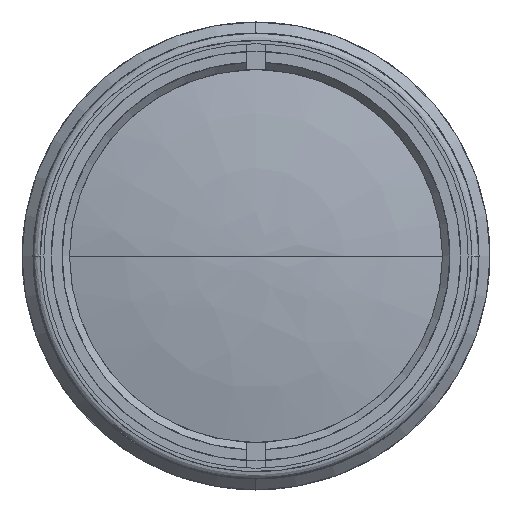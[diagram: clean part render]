
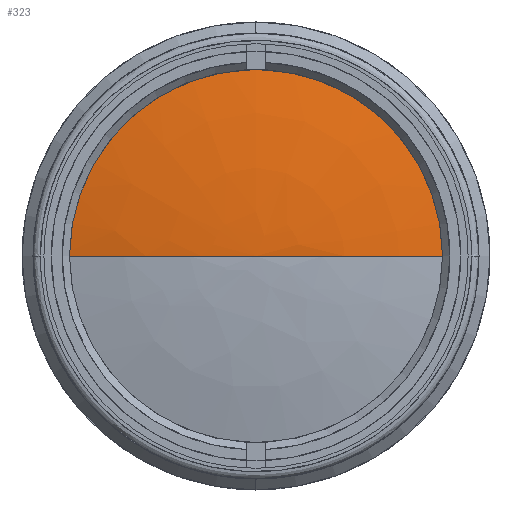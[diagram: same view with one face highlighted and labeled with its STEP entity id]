
A CAD part, left-side view. The second image highlights one B-rep face of the part: STEP entity #323.
In plain terms, the highlighted face is a revolution surface.
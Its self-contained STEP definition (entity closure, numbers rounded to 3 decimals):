
#323 = ADVANCED_FACE('',(#324),#342,.T.);
#324 = FACE_BOUND('',#325,.T.);
#325 = EDGE_LOOP('',(#326,#356,#375,#394));
#326 = ORIENTED_EDGE('',*,*,#327,.F.);
#327 = EDGE_CURVE('',#328,#330,#332,.T.);
#328 = VERTEX_POINT('',#329);
#329 = CARTESIAN_POINT('',(-125.48,0.,
    0.));
#330 = VERTEX_POINT('',#331);
#331 = CARTESIAN_POINT('',(-122.505,-27.,
    0.));
#332 = SURFACE_CURVE('',#333,(#341),.PCURVE_S1.);
#333 = ( BOUNDED_CURVE() B_SPLINE_CURVE(6,(#334,#335,#336,#337,#338,#339
,#340),.UNSPECIFIED.,.F.,.F.) B_SPLINE_CURVE_WITH_KNOTS((7,7),(0.,1.),
.PIECEWISE_BEZIER_KNOTS.) CURVE() GEOMETRIC_REPRESENTATION_ITEM() 
RATIONAL_B_SPLINE_CURVE((1.001,1.,1.,
    1.,1.,1.,1.001)) 
REPRESENTATION_ITEM('') );
#334 = CARTESIAN_POINT('',(-125.48,0.,
    0.));
#335 = CARTESIAN_POINT('',(-125.48,-4.538,
    0.));
#336 = CARTESIAN_POINT('',(-125.281,-9.074,
    0.));
#337 = CARTESIAN_POINT('',(-124.882,-13.598,
    0.));
#338 = CARTESIAN_POINT('',(-124.286,-18.1,
    0.));
#339 = CARTESIAN_POINT('',(-123.493,-22.571,
    0.));
#340 = CARTESIAN_POINT('',(-122.505,-27.,
    0.));
#341 = PCURVE('',#342,#351);
#342 = SURFACE_OF_REVOLUTION('',#343,#348);
#343 = CIRCLE('',#344,124.);
#344 = AXIS2_PLACEMENT_3D('',#345,#346,#347);
#345 = CARTESIAN_POINT('',(-1.48,0.,0.)
  );
#346 = DIRECTION('',(0.,0.,-1.));
#347 = DIRECTION('',(1.,0.,0.));
#348 = AXIS1_PLACEMENT('',#349,#350);
#349 = CARTESIAN_POINT('',(-1.48,0.,0.));
#350 = DIRECTION('',(1.,0.,0.));
#351 = DEFINITIONAL_REPRESENTATION('',(#352),#355);
#352 = B_SPLINE_CURVE_WITH_KNOTS('',1,(#353,#354),.UNSPECIFIED.,.F.,.F.,
  (2,2),(0.,1.),.PIECEWISE_BEZIER_KNOTS.);
#353 = CARTESIAN_POINT('',(6.283,3.142));
#354 = CARTESIAN_POINT('',(6.283,2.922));
#355 = ( GEOMETRIC_REPRESENTATION_CONTEXT(2) 
PARAMETRIC_REPRESENTATION_CONTEXT() REPRESENTATION_CONTEXT('',''
  ) );
#356 = ORIENTED_EDGE('',*,*,#357,.F.);
#357 = EDGE_CURVE('',#358,#328,#360,.T.);
#358 = VERTEX_POINT('',#359);
#359 = CARTESIAN_POINT('',(-125.48,0.,0.
    ));
#360 = SURFACE_CURVE('',#361,(#369),.PCURVE_S1.);
#361 = ( BOUNDED_CURVE() B_SPLINE_CURVE(6,(#362,#363,#364,#365,#366,#367
,#368),.UNSPECIFIED.,.F.,.F.) B_SPLINE_CURVE_WITH_KNOTS((7,7),(0.,1.),
.PIECEWISE_BEZIER_KNOTS.) CURVE() GEOMETRIC_REPRESENTATION_ITEM() 
RATIONAL_B_SPLINE_CURVE((1.133,1.036,0.992,
    0.976,0.992,1.036,1.133)) 
REPRESENTATION_ITEM('') );
#362 = CARTESIAN_POINT('',(-125.48,0.,0.
    ));
#363 = CARTESIAN_POINT('',(-125.48,0.,0.
    ));
#364 = CARTESIAN_POINT('',(-125.48,0.,0.
    ));
#365 = CARTESIAN_POINT('',(-125.48,0.,0.
    ));
#366 = CARTESIAN_POINT('',(-125.48,0.,
    0.));
#367 = CARTESIAN_POINT('',(-125.48,0.,
    0.));
#368 = CARTESIAN_POINT('',(-125.48,0.,0.
    ));
#369 = PCURVE('',#342,#370);
#370 = DEFINITIONAL_REPRESENTATION('',(#371),#374);
#371 = B_SPLINE_CURVE_WITH_KNOTS('',1,(#372,#373),.UNSPECIFIED.,.F.,.F.,
  (2,2),(0.,1.),.PIECEWISE_BEZIER_KNOTS.);
#372 = CARTESIAN_POINT('',(3.142,3.142));
#373 = CARTESIAN_POINT('',(6.283,3.142));
#374 = ( GEOMETRIC_REPRESENTATION_CONTEXT(2) 
PARAMETRIC_REPRESENTATION_CONTEXT() REPRESENTATION_CONTEXT('',''
  ) );
#375 = ORIENTED_EDGE('',*,*,#376,.F.);
#376 = EDGE_CURVE('',#377,#358,#379,.T.);
#377 = VERTEX_POINT('',#378);
#378 = CARTESIAN_POINT('',(-122.505,27.,
    0.));
#379 = SURFACE_CURVE('',#380,(#388),.PCURVE_S1.);
#380 = ( BOUNDED_CURVE() B_SPLINE_CURVE(6,(#381,#382,#383,#384,#385,#386
,#387),.UNSPECIFIED.,.F.,.F.) B_SPLINE_CURVE_WITH_KNOTS((7,7),(0.,1.),
.PIECEWISE_BEZIER_KNOTS.) CURVE() GEOMETRIC_REPRESENTATION_ITEM() 
RATIONAL_B_SPLINE_CURVE((1.001,1.,1.,
    1.,1.,1.,1.001)) 
REPRESENTATION_ITEM('') );
#381 = CARTESIAN_POINT('',(-122.505,27.,
    0.));
#382 = CARTESIAN_POINT('',(-123.493,22.571,
    0.));
#383 = CARTESIAN_POINT('',(-124.286,18.1,
    0.));
#384 = CARTESIAN_POINT('',(-124.882,13.598,
    0.));
#385 = CARTESIAN_POINT('',(-125.281,9.074,
    0.));
#386 = CARTESIAN_POINT('',(-125.48,4.538,
    0.));
#387 = CARTESIAN_POINT('',(-125.48,0.,
    0.));
#388 = PCURVE('',#342,#389);
#389 = DEFINITIONAL_REPRESENTATION('',(#390),#393);
#390 = B_SPLINE_CURVE_WITH_KNOTS('',1,(#391,#392),.UNSPECIFIED.,.F.,.F.,
  (2,2),(0.,1.),.PIECEWISE_BEZIER_KNOTS.);
#391 = CARTESIAN_POINT('',(3.142,2.922));
#392 = CARTESIAN_POINT('',(3.142,3.142));
#393 = ( GEOMETRIC_REPRESENTATION_CONTEXT(2) 
PARAMETRIC_REPRESENTATION_CONTEXT() REPRESENTATION_CONTEXT('',''
  ) );
#394 = ORIENTED_EDGE('',*,*,#395,.F.);
#395 = EDGE_CURVE('',#330,#377,#396,.T.);
#396 = SURFACE_CURVE('',#397,(#408),.PCURVE_S1.);
#397 = B_SPLINE_CURVE_WITH_KNOTS('',9,(#398,#399,#400,#401,#402,#403,
    #404,#405,#406,#407),.UNSPECIFIED.,.F.,.F.,(10,10),(0.,1.),
  .PIECEWISE_BEZIER_KNOTS.);
#398 = CARTESIAN_POINT('',(-122.505,-27.,
    0.));
#399 = CARTESIAN_POINT('',(-122.505,-27.,
    9.425));
#400 = CARTESIAN_POINT('',(-122.505,-23.299,
    18.85));
#401 = CARTESIAN_POINT('',(-122.505,-15.897,
    26.613));
#402 = CARTESIAN_POINT('',(-122.505,-5.663,
    31.056));
#403 = CARTESIAN_POINT('',(-122.505,5.663,
    31.056));
#404 = CARTESIAN_POINT('',(-122.505,15.897,
    26.613));
#405 = CARTESIAN_POINT('',(-122.505,23.299,
    18.85));
#406 = CARTESIAN_POINT('',(-122.505,27.,
    9.425));
#407 = CARTESIAN_POINT('',(-122.505,27.,
    0.));
#408 = PCURVE('',#342,#409);
#409 = DEFINITIONAL_REPRESENTATION('',(#410),#413);
#410 = B_SPLINE_CURVE_WITH_KNOTS('',1,(#411,#412),.UNSPECIFIED.,.F.,.F.,
  (2,2),(0.,1.),.PIECEWISE_BEZIER_KNOTS.);
#411 = CARTESIAN_POINT('',(6.283,2.922));
#412 = CARTESIAN_POINT('',(3.142,2.922));
#413 = ( GEOMETRIC_REPRESENTATION_CONTEXT(2) 
PARAMETRIC_REPRESENTATION_CONTEXT() REPRESENTATION_CONTEXT('',''
  ) );
